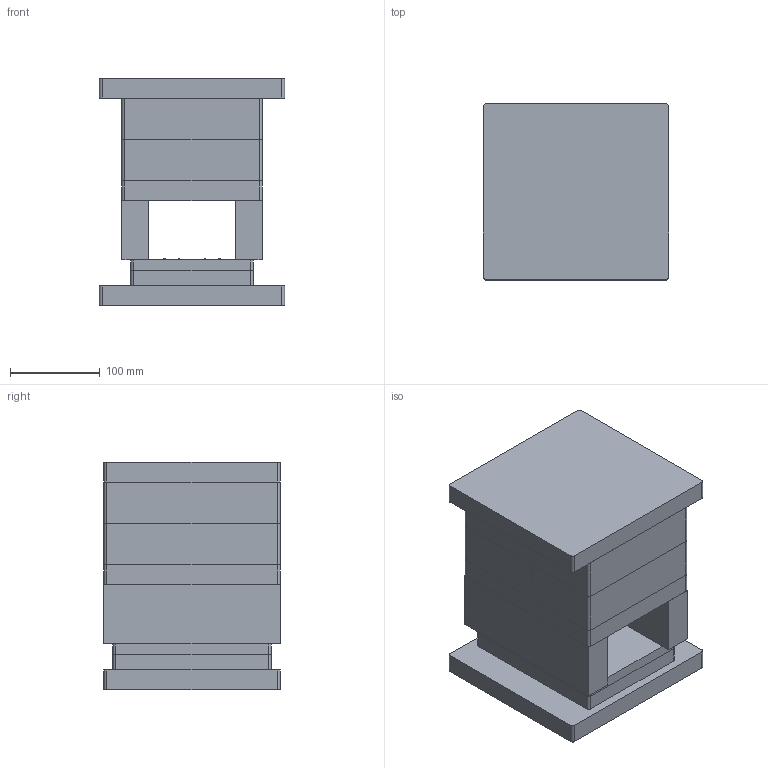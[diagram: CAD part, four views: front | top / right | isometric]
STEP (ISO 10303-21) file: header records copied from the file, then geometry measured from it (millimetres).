
FILE_DESCRIPTION(('Open CASCADE Model'),'2;1');
FILE_NAME('Open CASCADE Shape Model','2026-07-09T18:57:39',('Author'),( 'Open CASCADE'),'Open CASCADE STEP processor 7.8','Open CASCADE 7.8' ,'Unknown');
FILE_SCHEMA(('AUTOMOTIVE_DESIGN { 1 0 10303 214 1 1 1 1 }'));
Length unit declared in the file: millimetre
Products named in the file (31): 0e4425d8-7bc8-11f1-bd3f-42c6a604e804; clamp_plate_moving; ejector_plate; ejector_retainer_plate; spacer_left; spacer_right; support_plate; core_plate; cavity_plate; clamp_plate_fixed; guide_pin_0; guide_pin_1; guide_pin_2; guide_pin_3; sprue_bushing; locating_ring; ejector_pin_0; ejector_pin_1; ejector_pin_2; ejector_pin_3; ejector_pin_4; ejector_pin_5; ejector_pin_6; ejector_pin_7; sucker_pin_0; sucker_pin_1; sucker_pin_2; sucker_pin_3; slider_block; angle_pin_1; lifter_1
Assembly tree (30 placements, depth 2):
  0e4425d8-7bc8-11f1-bd3f-42c6a604e804
    clamp_plate_moving
    ejector_plate
    ejector_retainer_plate
    spacer_left
    spacer_right
    support_plate
    core_plate
    cavity_plate
    clamp_plate_fixed
    guide_pin_0
    guide_pin_1
    guide_pin_2
    guide_pin_3
    sprue_bushing
    locating_ring
    ejector_pin_0
    ejector_pin_1
    ejector_pin_2
    ejector_pin_3
    ejector_pin_4
    ejector_pin_5
    ejector_pin_6
    ejector_pin_7
    sucker_pin_0
    sucker_pin_1
    sucker_pin_2
    sucker_pin_3
    slider_block
    angle_pin_1
    lifter_1
Bounding box: 206 x 196 x 253 mm (x, y, z)
Volume: 6806813 mm3; surface area: 766453.6 mm2
Topology: 31 solids, 34 shells, 255 faces, 498 edges, 329 vertices
Faces by surface type: plane 148, cylinder 105, cone 2
Full cylindrical faces by diameter (mm): 1.5 x8, 1.52 x1, 1.6 x10, 4 x4, 4.2 x3, 5 x1, 5.5 x2, 6 x7, 6.6 x1, 10 x13, 24 x4, 24.2 x8, 24.5 x4, 30 x4, 40 x1, 42 x1, 100 x1
Entity records: 15108 total; most frequent: CARTESIAN_POINT 3841, DIRECTION 2137, ORIENTED_EDGE 996, PCURVE 996, DEFINITIONAL_REPRESENTATION 996, LINE 989, VECTOR 989, AXIS2_PLACEMENT_3D 505
